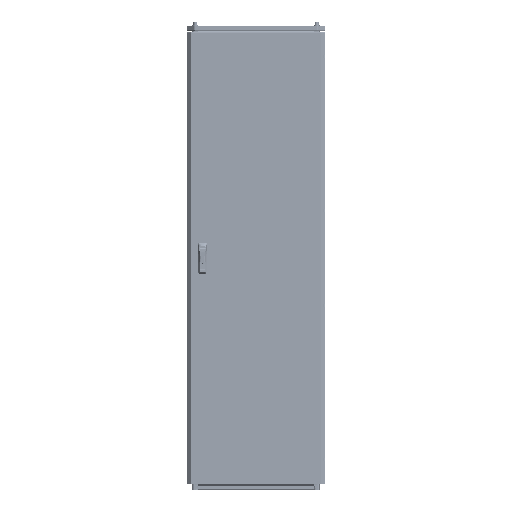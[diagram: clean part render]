
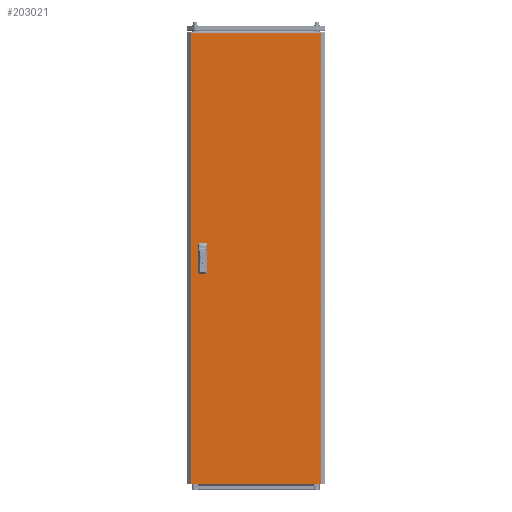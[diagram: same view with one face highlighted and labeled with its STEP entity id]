
A CAD part, top view. The second image highlights one B-rep face of the part: STEP entity #203021.
In plain terms, the highlighted planar face has unit normal (0, 0, 1).
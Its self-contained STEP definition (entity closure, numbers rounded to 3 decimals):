
#8329 = EDGE_CURVE ( 'NONE', #98984, #142308, #64164, .T. ) ;
#16191 = VERTEX_POINT ( 'NONE', #56959 ) ;
#17146 = LINE ( 'NONE', #128181, #92049 ) ;
#19705 = VERTEX_POINT ( 'NONE', #88769 ) ;
#20664 = CARTESIAN_POINT ( 'NONE',  ( -242.5, 12.5, 0. ) ) ;
#23061 = LINE ( 'NONE', #20664, #103882 ) ;
#23536 = AXIS2_PLACEMENT_3D ( 'NONE', #151747, #67088, #207790 ) ;
#23613 = EDGE_CURVE ( 'NONE', #194821, #104705, #54966, .T. ) ;
#23673 = CARTESIAN_POINT ( 'NONE',  ( -277.875, 969.5, 0. ) ) ;
#29014 = CARTESIAN_POINT ( 'NONE',  ( -242.5, -12.5, 0. ) ) ;
#29342 = VECTOR ( 'NONE', #96857, 1000. ) ;
#31218 = VECTOR ( 'NONE', #182445, 1000. ) ;
#33162 = EDGE_CURVE ( 'NONE', #16191, #187512, #208997, .T. ) ;
#35756 = EDGE_CURVE ( 'NONE', #187512, #135923, #23061, .T. ) ;
#36555 = CARTESIAN_POINT ( 'NONE',  ( 277.875, -969.5, 0. ) ) ;
#40454 = CARTESIAN_POINT ( 'NONE',  ( -217.5, 12.5, 0. ) ) ;
#40766 = LINE ( 'NONE', #61509, #29342 ) ;
#41909 = DIRECTION ( 'NONE',  ( 0., -1., 0. ) ) ;
#52856 = ORIENTED_EDGE ( 'NONE', *, *, #58009, .F. ) ;
#53875 = EDGE_CURVE ( 'NONE', #58259, #16191, #94244, .T. ) ;
#54966 = LINE ( 'NONE', #167170, #129834 ) ;
#54975 = DIRECTION ( 'NONE',  ( 1., 0., 0. ) ) ;
#56180 = VECTOR ( 'NONE', #128585, 1000. ) ;
#56959 = CARTESIAN_POINT ( 'NONE',  ( -242.5, 62.5, 0. ) ) ;
#58009 = EDGE_CURVE ( 'NONE', #181954, #98984, #143461, .T. ) ;
#58259 = VERTEX_POINT ( 'NONE', #93323 ) ;
#59608 = EDGE_CURVE ( 'NONE', #142308, #19705, #224897, .T. ) ;
#59782 = LINE ( 'NONE', #191451, #140224 ) ;
#61051 = LINE ( 'NONE', #209848, #129748 ) ;
#61509 = CARTESIAN_POINT ( 'NONE',  ( -277.875, -969.5, 0. ) ) ;
#64164 = LINE ( 'NONE', #84833, #190625 ) ;
#67088 = DIRECTION ( 'NONE',  ( 0., 0., -1. ) ) ;
#68230 = ORIENTED_EDGE ( 'NONE', *, *, #53875, .F. ) ;
#68727 = ORIENTED_EDGE ( 'NONE', *, *, #59608, .F. ) ;
#69438 = CARTESIAN_POINT ( 'NONE',  ( -242.5, 12.5, 0. ) ) ;
#69612 = CARTESIAN_POINT ( 'NONE',  ( 277.875, -969.5, 0. ) ) ;
#71415 = CARTESIAN_POINT ( 'NONE',  ( -242.5, -12.5, 0. ) ) ;
#72975 = CARTESIAN_POINT ( 'NONE',  ( -242.5, -62.5, 0. ) ) ;
#77298 = FACE_BOUND ( 'NONE', #194762, .T. ) ;
#78459 = PLANE ( 'NONE',  #23536 ) ;
#79129 = DIRECTION ( 'NONE',  ( 1., 0., 0. ) ) ;
#82413 = DIRECTION ( 'NONE',  ( 0., -1., 0. ) ) ;
#84069 = ORIENTED_EDGE ( 'NONE', *, *, #104668, .T. ) ;
#84514 = ORIENTED_EDGE ( 'NONE', *, *, #193291, .T. ) ;
#84833 = CARTESIAN_POINT ( 'NONE',  ( -242.5, -62.5, 0. ) ) ;
#88769 = CARTESIAN_POINT ( 'NONE',  ( -217.5, -62.5, 0. ) ) ;
#89540 = CARTESIAN_POINT ( 'NONE',  ( -242.5, -62.5, 0. ) ) ;
#92049 = VECTOR ( 'NONE', #54975, 1000. ) ;
#93323 = CARTESIAN_POINT ( 'NONE',  ( -217.5, 62.5, 0. ) ) ;
#94244 = LINE ( 'NONE', #225966, #159680 ) ;
#96857 = DIRECTION ( 'NONE',  ( 0., -1., 0. ) ) ;
#98984 = VERTEX_POINT ( 'NONE', #29014 ) ;
#103882 = VECTOR ( 'NONE', #79129, 1000. ) ;
#104668 = EDGE_CURVE ( 'NONE', #104705, #161128, #40766, .T. ) ;
#104705 = VERTEX_POINT ( 'NONE', #23673 ) ;
#112007 = ORIENTED_EDGE ( 'NONE', *, *, #8329, .F. ) ;
#112285 = DIRECTION ( 'NONE',  ( 0., 1., 0. ) ) ;
#114592 = LINE ( 'NONE', #36555, #167697 ) ;
#118695 = CARTESIAN_POINT ( 'NONE',  ( -277.875, -969.5, 0. ) ) ;
#118742 = CARTESIAN_POINT ( 'NONE',  ( -242.5, 12.5, 0. ) ) ;
#120015 = CARTESIAN_POINT ( 'NONE',  ( -217.5, -12.5, 0. ) ) ;
#128181 = CARTESIAN_POINT ( 'NONE',  ( -277.875, -969.5, 0. ) ) ;
#128226 = ORIENTED_EDGE ( 'NONE', *, *, #35756, .F. ) ;
#128585 = DIRECTION ( 'NONE',  ( 1., 0., 0. ) ) ;
#129748 = VECTOR ( 'NONE', #232952, 1000. ) ;
#129834 = VECTOR ( 'NONE', #207323, 1000. ) ;
#132106 = EDGE_CURVE ( 'NONE', #19705, #181954, #61051, .T. ) ;
#132645 = EDGE_LOOP ( 'NONE', ( #134428, #154646, #84069, #84514 ) ) ;
#132948 = ORIENTED_EDGE ( 'NONE', *, *, #211756, .F. ) ;
#133417 = FACE_BOUND ( 'NONE', #188722, .T. ) ;
#134428 = ORIENTED_EDGE ( 'NONE', *, *, #183510, .T. ) ;
#135923 = VERTEX_POINT ( 'NONE', #40454 ) ;
#140224 = VECTOR ( 'NONE', #112285, 1000. ) ;
#142308 = VERTEX_POINT ( 'NONE', #72975 ) ;
#143461 = LINE ( 'NONE', #71415, #31218 ) ;
#151747 = CARTESIAN_POINT ( 'NONE',  ( 0., 0., 0. ) ) ;
#154646 = ORIENTED_EDGE ( 'NONE', *, *, #23613, .T. ) ;
#159680 = VECTOR ( 'NONE', #204056, 1000. ) ;
#161128 = VERTEX_POINT ( 'NONE', #118695 ) ;
#167089 = DIRECTION ( 'NONE',  ( 0., 1., 0. ) ) ;
#167170 = CARTESIAN_POINT ( 'NONE',  ( -277.875, 969.5, 0. ) ) ;
#167697 = VECTOR ( 'NONE', #167089, 1000. ) ;
#181954 = VERTEX_POINT ( 'NONE', #120015 ) ;
#182445 = DIRECTION ( 'NONE',  ( -1., 0., 0. ) ) ;
#183510 = EDGE_CURVE ( 'NONE', #225014, #194821, #114592, .T. ) ;
#187512 = VERTEX_POINT ( 'NONE', #69438 ) ;
#188722 = EDGE_LOOP ( 'NONE', ( #68230, #132948, #128226, #210641 ) ) ;
#190625 = VECTOR ( 'NONE', #82413, 1000. ) ;
#191451 = CARTESIAN_POINT ( 'NONE',  ( -217.5, 12.5, 0. ) ) ;
#193291 = EDGE_CURVE ( 'NONE', #161128, #225014, #17146, .T. ) ;
#194762 = EDGE_LOOP ( 'NONE', ( #52856, #232578, #68727, #112007 ) ) ;
#194821 = VERTEX_POINT ( 'NONE', #215794 ) ;
#203021 = ADVANCED_FACE ( 'NONE', ( #133417, #77298, #210226 ), #78459, .F. ) ;
#204056 = DIRECTION ( 'NONE',  ( -1., 0., 0. ) ) ;
#207323 = DIRECTION ( 'NONE',  ( -1., 0., 0. ) ) ;
#207790 = DIRECTION ( 'NONE',  ( -1., 0., 0. ) ) ;
#208997 = LINE ( 'NONE', #118742, #215316 ) ;
#209848 = CARTESIAN_POINT ( 'NONE',  ( -217.5, -62.5, 0. ) ) ;
#210226 = FACE_OUTER_BOUND ( 'NONE', #132645, .T. ) ;
#210641 = ORIENTED_EDGE ( 'NONE', *, *, #33162, .F. ) ;
#211756 = EDGE_CURVE ( 'NONE', #135923, #58259, #59782, .T. ) ;
#215316 = VECTOR ( 'NONE', #41909, 1000. ) ;
#215794 = CARTESIAN_POINT ( 'NONE',  ( 277.875, 969.5, 0. ) ) ;
#224897 = LINE ( 'NONE', #89540, #56180 ) ;
#225014 = VERTEX_POINT ( 'NONE', #69612 ) ;
#225966 = CARTESIAN_POINT ( 'NONE',  ( -242.5, 62.5, 0. ) ) ;
#232578 = ORIENTED_EDGE ( 'NONE', *, *, #132106, .F. ) ;
#232952 = DIRECTION ( 'NONE',  ( 0., 1., 0. ) ) ;
